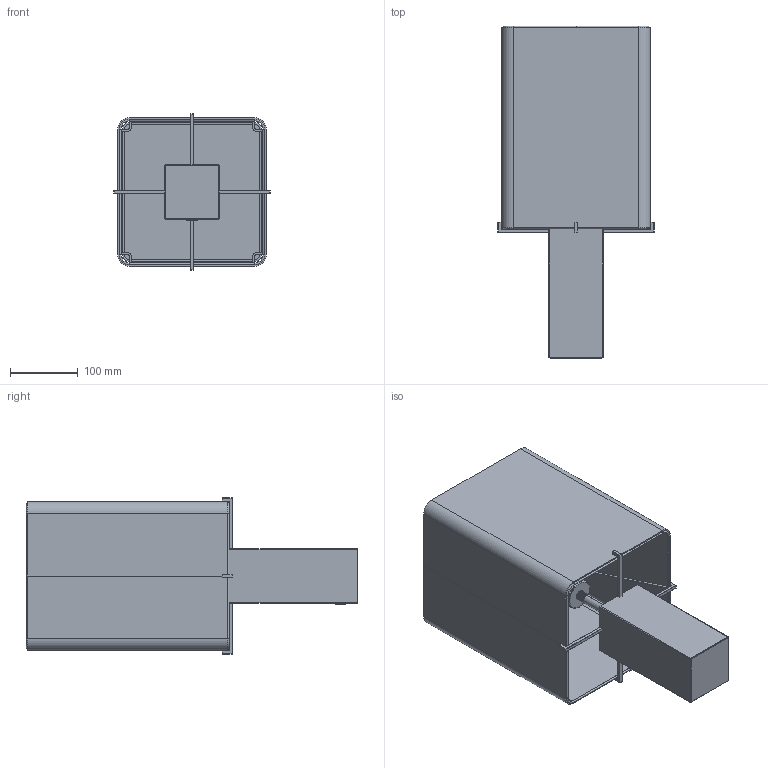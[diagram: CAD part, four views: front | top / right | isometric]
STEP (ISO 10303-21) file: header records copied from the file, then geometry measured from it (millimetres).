
FILE_DESCRIPTION (( 'STEP AP214' ), '1' );
FILE_NAME ('NONNA H49 table lamp.STEP', '2025-10-01T11:25:30', ( '' ), ( '' ), 'SwSTEP 2.0', 'SolidWorks 2024', '' );
FILE_SCHEMA (( 'AUTOMOTIVE_DESIGN' ));
Length unit declared in the file: millimetre
Products named in the file (9): Screw M3; Fabric pad; Lamp cup; NONNA H49 table lamp; Base; Straight tube; Shade; Decorate nut; bracket
Assembly tree (13 placements, depth 2):
  NONNA H49 table lamp
    Base
    bracket  x4
    Shade
    Lamp cup
    Fabric pad
    Straight tube
    Decorate nut
    Screw M3  x3
Bounding box: 231 x 491.35 x 231 mm (x, y, z)
Volume: 1787175.8 mm3; surface area: 741101.1 mm2
Topology: 22 solids, 22 shells, 742 faces, 1796 edges, 1100 vertices
Faces by surface type: plane 330, cylinder 290, cone 50, torus 48, bspline 18, sphere 6
Entity records: 19387 total; most frequent: CARTESIAN_POINT 9446, ORIENTED_EDGE 2066, DIRECTION 1975, EDGE_CURVE 1033, AXIS2_PLACEMENT_3D 728, VERTEX_POINT 638, VECTOR 519, LINE 519
